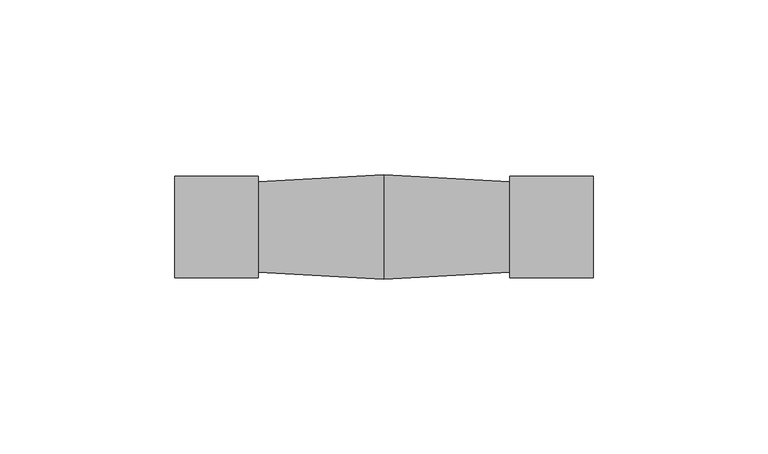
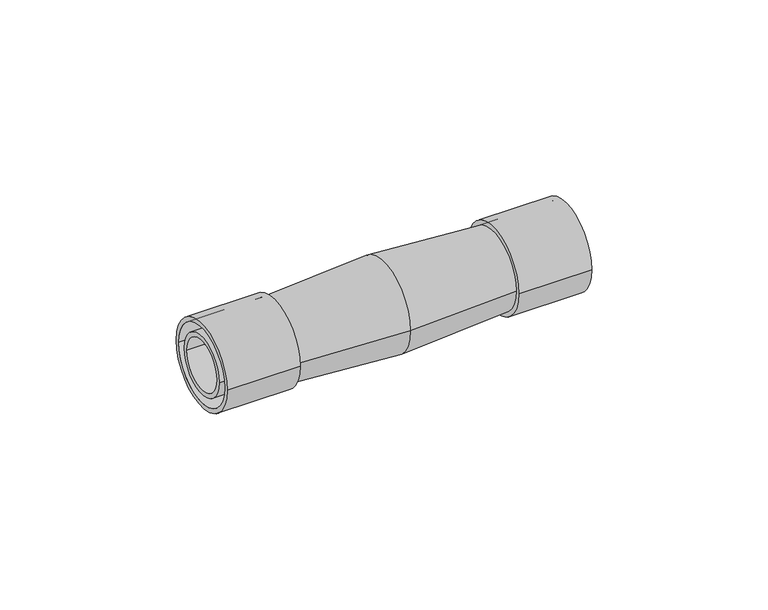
"""IFC4 building model written with IfcOpenShell, lengths in millimetres: cable carrier fitting geometry, КНС_МуфтаДляАрмированныхТруб_IP65_DKC : Коробка."""

from ifc_helpers import new_model, si_unit, point, frame, origin, origin_2d, place, context, project, spatial, polyline, circle_curve, trimmed, segment, composite_curve, outline, extrude, source, transform, mapped, element, save
from ifc_brep_helpers import plane_surface, revolved_surface, advanced_brep


def cable_carrier_fitting_585735aa(model_context):
    return source(origin(), model_context, "Body", "SolidModel", [
        advanced_brep(
        [(-36.0, -13.0, 0.0), (-36.0, 13.0, 0.0), (0.0, 15.0, 0.0), (0.0, -15.0, 0.0), (-36.0, 0.0, 0.0), (36.0, -13.0, 0.0), (36.0, 13.0, 0.0), (36.0, 0.0, 0.0)],
        [
            (0, 1, circle_curve(frame((-36.0, 0.0, 0.0), z_axis=(1.0, 0.0, 0.0), x_axis=(0.0, 1.0, 0.0)), 13.0)),
            (1, 2),
            (2, 3, circle_curve(frame((0.0, 0.0, 0.0), z_axis=(-1.0, 0.0, 0.0), x_axis=(0.0, 1.0, 0.0)), 15.0)),
            (3, 0),
            (1, 0, circle_curve(frame((-36.0, 0.0, 0.0), z_axis=(1.0, 0.0, 0.0), x_axis=(0.0, 1.0, 0.0)), 13.0)),
            (3, 2, circle_curve(frame((0.0, 0.0, 0.0), z_axis=(-1.0, 0.0, 0.0), x_axis=(0.0, 1.0, 0.0)), 15.0)),
            (4, 1),
            (0, 4),
            (5, 6, circle_curve(frame((36.0, 0.0, 0.0), z_axis=(1.0, 0.0, 0.0), x_axis=(0.0, 1.0, 0.0)), 13.0)),
            (6, 7),
            (7, 5),
            (6, 5, circle_curve(frame((36.0, 0.0, 0.0), z_axis=(1.0, 0.0, 0.0), x_axis=(0.0, 1.0, 0.0)), 13.0)),
            (2, 6),
            (5, 3),
        ],
        [
            revolved_surface(polyline([(0.0, 15.0, 0.0), (-36.0, 13.0, 0.0)]), (1511.0, 0.0, 0.0), (-1.0, 0.0, 0.0)),
            plane_surface(frame((-36.0, 0.0, 0.0), z_axis=(-1.0, 0.0, 0.0), x_axis=(0.0, 1.0, 0.0))),
            plane_surface(frame((36.0, 0.0, 0.0), z_axis=(1.0, 0.0, 0.0), x_axis=(0.0, 1.0, 0.0))),
            revolved_surface(polyline([(36.0, 13.0, 0.0), (0.0, 15.0, 0.0)]), (1511.0, 0.0, 0.0), (-1.0, 0.0, 0.0)),
        ],
        [
            (0, [[1, 2, 3, 4]]),
            (0, [[5, -4, 6, -2]]),
            (1, [[7, -1, 8]]),
            (1, [[-8, -5, -7]]),
            (2, [[9, 10, 11]]),
            (2, [[12, -11, -10]]),
            (3, [[-3, 13, -9, 14]]),
            (3, [[-6, -14, -12, -13]]),
        ],
    ),
        extrude(outline(composite_curve([segment(trimmed(circle_curve(origin_2d(), 10.0), [point((-10.0, 0.0))], [point((10.0, 0.0))], False, "CARTESIAN"), True, "CONTINUOUS"), segment(trimmed(circle_curve(origin_2d(), 10.0), [point((10.0, 0.0))], [point((-10.0, 0.0))], False, "CARTESIAN"), True, "CONTINUOUS")], self_intersect=False), holes=[composite_curve([segment(trimmed(circle_curve(origin_2d(), 8.5), [point((-8.5, 0.0))], [point((8.5, 0.0))], True, "CARTESIAN"), True, "CONTINUOUS"), segment(trimmed(circle_curve(origin_2d(), 8.5), [point((8.5, 0.0))], [point((-8.5, 0.0))], True, "CARTESIAN"), True, "CONTINUOUS")], self_intersect=False)]), frame((-60.0, 0.0, 0.0), z_axis=(1.0, 0.0, 0.0), x_axis=(0.0, 1.0, 0.0)), (0.0, 0.0, 1.0), 24.0),
        extrude(outline(composite_curve([segment(trimmed(circle_curve(origin_2d(), 14.5), [point((-14.5, 0.0))], [point((14.5, 0.0))], False, "CARTESIAN"), True, "CONTINUOUS"), segment(trimmed(circle_curve(origin_2d(), 14.5), [point((14.5, 0.0))], [point((-14.5, 0.0))], False, "CARTESIAN"), True, "CONTINUOUS")], self_intersect=False), holes=[composite_curve([segment(trimmed(circle_curve(origin_2d(), 13.0), [point((-13.0, 0.0))], [point((13.0, 0.0))], True, "CARTESIAN"), True, "CONTINUOUS"), segment(trimmed(circle_curve(origin_2d(), 13.0), [point((13.0, 0.0))], [point((-13.0, 0.0))], True, "CARTESIAN"), True, "CONTINUOUS")], self_intersect=False)]), frame((-60.0, 0.0, 0.0), z_axis=(1.0, 0.0, 0.0), x_axis=(0.0, 1.0, 0.0)), (0.0, 0.0, 1.0), 24.0),
        extrude(outline(composite_curve([segment(trimmed(circle_curve(origin_2d(), 14.5), [point((-14.5, 0.0))], [point((14.5, 0.0))], False, "CARTESIAN"), True, "CONTINUOUS"), segment(trimmed(circle_curve(origin_2d(), 14.5), [point((14.5, 0.0))], [point((-14.5, 0.0))], False, "CARTESIAN"), True, "CONTINUOUS")], self_intersect=False), holes=[composite_curve([segment(trimmed(circle_curve(origin_2d(), 13.0), [point((-13.0, 0.0))], [point((13.0, 0.0))], True, "CARTESIAN"), True, "CONTINUOUS"), segment(trimmed(circle_curve(origin_2d(), 13.0), [point((13.0, 0.0))], [point((-13.0, 0.0))], True, "CARTESIAN"), True, "CONTINUOUS")], self_intersect=False)]), frame((36.0, 0.0, 0.0), z_axis=(1.0, 0.0, 0.0), x_axis=(0.0, 1.0, 0.0)), (0.0, 0.0, 1.0), 24.0),
        extrude(outline(composite_curve([segment(trimmed(circle_curve(origin_2d(), 10.0), [point((-10.0, 0.0))], [point((10.0, 0.0))], False, "CARTESIAN"), True, "CONTINUOUS"), segment(trimmed(circle_curve(origin_2d(), 10.0), [point((10.0, 0.0))], [point((-10.0, 0.0))], False, "CARTESIAN"), True, "CONTINUOUS")], self_intersect=False), holes=[composite_curve([segment(trimmed(circle_curve(origin_2d(), 8.5), [point((-8.5, 0.0))], [point((8.5, 0.0))], True, "CARTESIAN"), True, "CONTINUOUS"), segment(trimmed(circle_curve(origin_2d(), 8.5), [point((8.5, 0.0))], [point((-8.5, 0.0))], True, "CARTESIAN"), True, "CONTINUOUS")], self_intersect=False)]), frame((36.0, 0.0, 0.0), z_axis=(1.0, 0.0, 0.0), x_axis=(0.0, 1.0, 0.0)), (0.0, 0.0, 1.0), 24.0),
    ])


if __name__ == "__main__":
    model = new_model("IFC4")
    model_context = context("Model", 3, world=origin())
    ifc_project = project(units=[si_unit("LENGTHUNIT", "METRE", prefix="MILLI")], contexts=[model_context])
    site = spatial("IfcSite", under=ifc_project)
    building = spatial("IfcBuilding", under=site)
    placement = place(None, origin())
    cable_carrier_fitting_shape = cable_carrier_fitting_585735aa(model_context)
    element("IfcCableCarrierFitting", 1, ObjectType="КНС_МуфтаДляАрмированныхТруб_IP65_DKC : Коробка", at=placement, inside=building, context=model_context, shape_type="MappedRepresentation", body=[
        mapped(cable_carrier_fitting_shape, transform((0.0, 0.0, 0.0), x_axis=(1.0, 0.0, 0.0), y_axis=(0.0, 1.0, 0.0), z_axis=(0.0, 0.0, 1.0))),
    ])
    save(model, "model.ifc")
